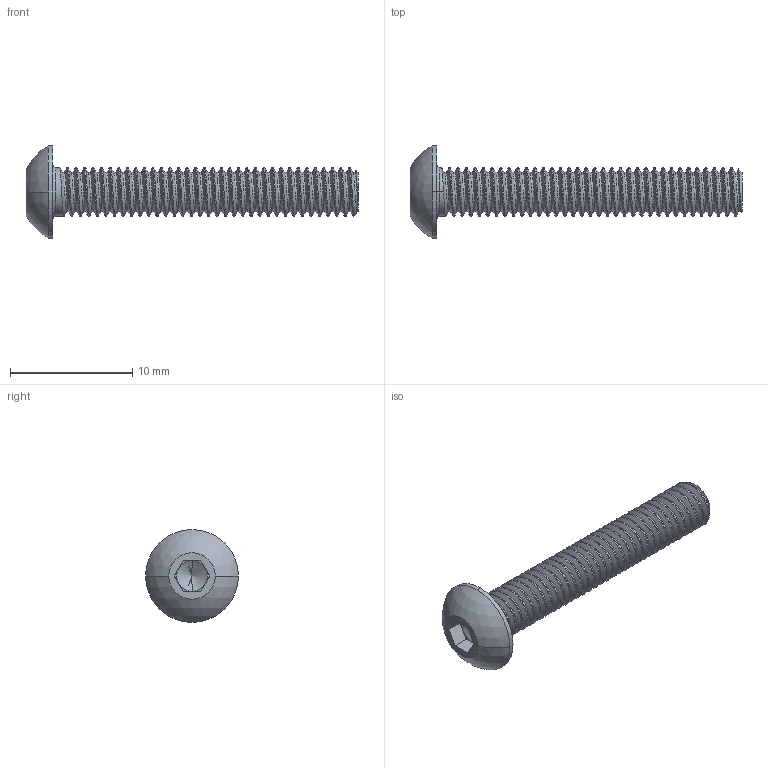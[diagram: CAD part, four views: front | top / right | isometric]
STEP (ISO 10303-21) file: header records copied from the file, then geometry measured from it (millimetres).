
FILE_DESCRIPTION (( 'STEP AP203' ), '1' );
FILE_NAME ('M4x25_ISO7380.STEP', '2025-11-17T09:01:41', ( '' ), ( '' ), 'SwSTEP 2.0', 'SolidWorks 2022', '' );
FILE_SCHEMA (( 'CONFIG_CONTROL_DESIGN' ));
Length unit declared in the file: millimetre
Products named in the file (1): M4x25_ISO7380
Bounding box: 27.2 x 7.6 x 7.6 mm (x, y, z)
Volume: 318.1 mm3; surface area: 575.9 mm2
Topology: 1 solids, 1 shells, 100 faces, 279 edges, 181 vertices
Faces by surface type: cylinder 72, plane 16, cone 5, bspline 3, torus 2, sphere 2
Entity records: 9408 total; most frequent: CARTESIAN_POINT 7142, ORIENTED_EDGE 554, DIRECTION 345, EDGE_CURVE 277, VERTEX_POINT 181, AXIS2_PLACEMENT_3D 122, EDGE_LOOP 102, LINE 101
